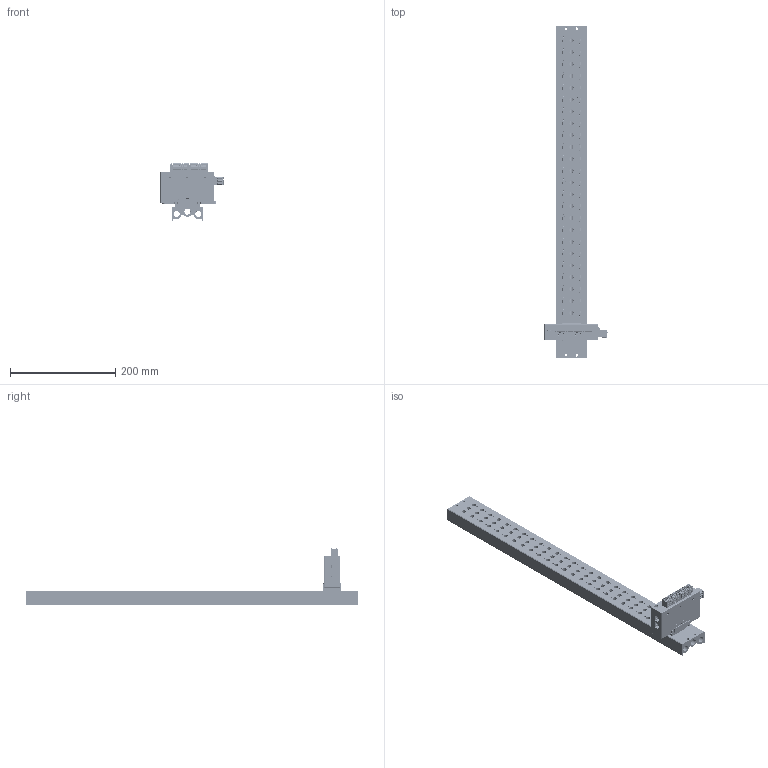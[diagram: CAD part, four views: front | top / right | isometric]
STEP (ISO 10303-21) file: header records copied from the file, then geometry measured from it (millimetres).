
FILE_DESCRIPTION(/* description */ (''),/* implementation_level */ '2;1');
FILE_NAME(/* name */ '',/* time_stamp */ '2025-10-09T16:40:49+08:00',/* author */ (''),/* organization */ (''),/* preprocessor_version */ 'ST-DEVELOPER v14',/* originating_system */ 'SIEMENS PLM Software NX 8.0',/* authorisation */ '');
FILE_SCHEMA (('AP203_CONFIGURATION_CONTROLLED_3D_DESIGN_OF_MECHANICAL_PARTS_AND_ASSEMBLIES_MIM_LF { 1 0 10303 403 2 1 2}'));
Products named in the file (1): DELL3E5857E9ud0n
Bounding box: 119.8 x 631 x 108.48 mm (x, y, z)
Volume: 764138.1 mm3; surface area: 262955.3 mm2
Topology: 2 solids, 228 shells, 9930 faces, 26273 edges, 17096 vertices
Faces by surface type: plane 6443, cylinder 2355, torus 336, bspline 329, cone 285, sphere 95, extrusion 87
Full cylindrical faces by diameter (mm): 0.18 x2, 2.5 x53, 3.05 x40, 3.3 x3, 3.5 x4, 4 x3, 4.5 x4, 6 x4, 8 x72, 11.492 x1, 11.5 x5, 11.8 x6
Entity records: 326733 total; most frequent: CARTESIAN_POINT 82771, ORIENTED_EDGE 51102, DIRECTION 48846, EDGE_CURVE 25551, VECTOR 18142, LINE 18055, VERTEX_POINT 16933, AXIS2_PLACEMENT_3D 15352
